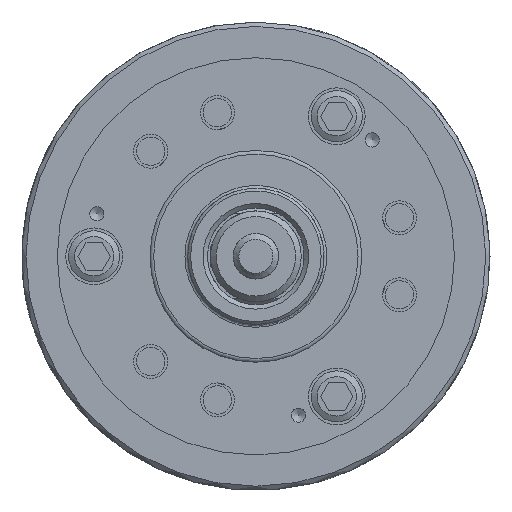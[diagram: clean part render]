
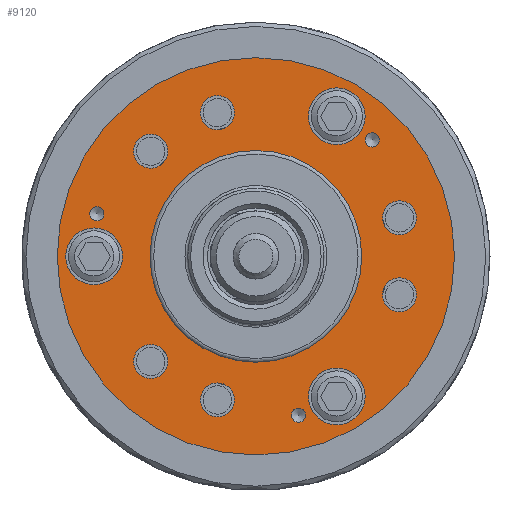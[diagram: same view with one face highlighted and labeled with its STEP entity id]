
A CAD part, left-side view. The second image highlights one B-rep face of the part: STEP entity #9120.
In plain terms, the highlighted planar face has unit normal (-1, 0, 0).
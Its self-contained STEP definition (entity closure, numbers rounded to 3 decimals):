
#58 = DIRECTION ( 'NONE',  ( 0., 0., 1. ) ) ;
#92 = ORIENTED_EDGE ( 'NONE', *, *, #4273, .F. ) ;
#146 = CARTESIAN_POINT ( 'NONE',  ( -69., -15.012, -53.524 ) ) ;
#1245 = EDGE_LOOP ( 'NONE', ( #43216 ) ) ;
#1651 = CARTESIAN_POINT ( 'NONE',  ( -69., -41.012, 43.512 ) ) ;
#2018 = CARTESIAN_POINT ( 'NONE',  ( -69., 57., 0. ) ) ;
#2184 = EDGE_CURVE ( 'NONE', #18771, #18771, #10607, .T. ) ;
#2540 = CARTESIAN_POINT ( 'NONE',  ( -69., 13.56, -50.605 ) ) ;
#3609 = VERTEX_POINT ( 'NONE', #41400 ) ;
#3713 = DIRECTION ( 'NONE',  ( -1., 0., 0. ) ) ;
#4118 = AXIS2_PLACEMENT_3D ( 'NONE', #7594, #42008, #10898 ) ;
#4273 = EDGE_CURVE ( 'NONE', #40819, #40819, #5903, .T. ) ;
#4452 = DIRECTION ( 'NONE',  ( 1., 0., 0. ) ) ;
#4849 = DIRECTION ( 'NONE',  ( 1., 0., 0. ) ) ;
#5024 = CIRCLE ( 'NONE', #19785, 2.5 ) ;
#5540 = DIRECTION ( 'NONE',  ( -1., 0., 0. ) ) ;
#5832 = DIRECTION ( 'NONE',  ( 0., 0., 1. ) ) ;
#5903 = CIRCLE ( 'NONE', #21922, 2.5 ) ;
#5904 = CARTESIAN_POINT ( 'NONE',  ( -69., -45.409, -16.56 ) ) ;
#6360 = VERTEX_POINT ( 'NONE', #29976 ) ;
#6746 = EDGE_CURVE ( 'NONE', #23660, #23660, #7377, .T. ) ;
#7377 = CIRCLE ( 'NONE', #26600, 6. ) ;
#7441 = CARTESIAN_POINT ( 'NONE',  ( -69., 57., 10. ) ) ;
#7594 = CARTESIAN_POINT ( 'NONE',  ( -69., -50.605, -13.56 ) ) ;
#8088 = ORIENTED_EDGE ( 'NONE', *, *, #2184, .T. ) ;
#8245 = CIRCLE ( 'NONE', #18167, 2.5 ) ;
#8374 = CIRCLE ( 'NONE', #43654, 6. ) ;
#9120 = ADVANCED_FACE ( 'NONE', ( #38324, #32906, #14607, #27027, #22204, #12438, #21624, #31305, #40459, #20535, #18923, #37231, #11931, #39380 ), #28985, .T. ) ;
#9426 = EDGE_CURVE ( 'NONE', #16602, #16602, #44517, .T. ) ;
#10607 = CIRCLE ( 'NONE', #43401, 6. ) ;
#10898 = DIRECTION ( 'NONE',  ( 0., 0.866, -0.5 ) ) ;
#11931 = FACE_BOUND ( 'NONE', #26648, .T. ) ;
#12391 = CARTESIAN_POINT ( 'NONE',  ( -69., 0., 0. ) ) ;
#12438 = FACE_BOUND ( 'NONE', #15707, .T. ) ;
#12493 = ORIENTED_EDGE ( 'NONE', *, *, #43053, .F. ) ;
#12611 = DIRECTION ( 'NONE',  ( -1., 0., 0. ) ) ;
#12793 = VERTEX_POINT ( 'NONE', #7441 ) ;
#14020 = AXIS2_PLACEMENT_3D ( 'NONE', #12391, #29991, #36452 ) ;
#14035 = EDGE_CURVE ( 'NONE', #6360, #6360, #38358, .T. ) ;
#14154 = DIRECTION ( 'NONE',  ( 0., 0., -1. ) ) ;
#14348 = DIRECTION ( 'NONE',  ( 1., 0., 0. ) ) ;
#14607 = FACE_BOUND ( 'NONE', #22852, .T. ) ;
#14713 = AXIS2_PLACEMENT_3D ( 'NONE', #27937, #14348, #38444 ) ;
#15149 = EDGE_LOOP ( 'NONE', ( #43371 ) ) ;
#15550 = CIRCLE ( 'NONE', #34943, 10. ) ;
#15707 = EDGE_LOOP ( 'NONE', ( #15857 ) ) ;
#15857 = ORIENTED_EDGE ( 'NONE', *, *, #28120, .T. ) ;
#16119 = CARTESIAN_POINT ( 'NONE',  ( -69., -45.409, 16.56 ) ) ;
#16199 = EDGE_CURVE ( 'NONE', #27374, #27374, #15550, .T. ) ;
#16602 = VERTEX_POINT ( 'NONE', #5904 ) ;
#17702 = CARTESIAN_POINT ( 'NONE',  ( -69., -28.5, -49.363 ) ) ;
#18167 = AXIS2_PLACEMENT_3D ( 'NONE', #20739, #34873, #58 ) ;
#18323 = CIRCLE ( 'NONE', #33677, 6. ) ;
#18678 = CARTESIAN_POINT ( 'NONE',  ( -69., 56.024, 15.012 ) ) ;
#18771 = VERTEX_POINT ( 'NONE', #29109 ) ;
#18923 = FACE_BOUND ( 'NONE', #39357, .T. ) ;
#19617 = DIRECTION ( 'NONE',  ( 0., -0.866, 0.5 ) ) ;
#19648 = CARTESIAN_POINT ( 'NONE',  ( -69., 35., -60.622 ) ) ;
#19780 = EDGE_CURVE ( 'NONE', #42399, #42399, #5024, .T. ) ;
#19785 = AXIS2_PLACEMENT_3D ( 'NONE', #18678, #31775, #42150 ) ;
#20535 = FACE_BOUND ( 'NONE', #36869, .T. ) ;
#20739 = CARTESIAN_POINT ( 'NONE',  ( -69., -15.012, -56.024 ) ) ;
#20874 = VERTEX_POINT ( 'NONE', #41558 ) ;
#21624 = FACE_BOUND ( 'NONE', #15149, .T. ) ;
#21710 = DIRECTION ( 'NONE',  ( -1., 0., 0. ) ) ;
#21874 = CARTESIAN_POINT ( 'NONE',  ( -69., -41.012, 41.012 ) ) ;
#21908 = DIRECTION ( 'NONE',  ( 0., 0.866, 0.5 ) ) ;
#21922 = AXIS2_PLACEMENT_3D ( 'NONE', #21874, #21710, #35081 ) ;
#22204 = FACE_BOUND ( 'NONE', #1245, .T. ) ;
#22319 = CIRCLE ( 'NONE', #37494, 10. ) ;
#22343 = ORIENTED_EDGE ( 'NONE', *, *, #30981, .F. ) ;
#22795 = CARTESIAN_POINT ( 'NONE',  ( -69., -37.16, -44.363 ) ) ;
#22852 = EDGE_LOOP ( 'NONE', ( #24574 ) ) ;
#22966 = DIRECTION ( 'NONE',  ( -1., 0., 0. ) ) ;
#23277 = DIRECTION ( 'NONE',  ( 0., 0., 1. ) ) ;
#23656 = EDGE_CURVE ( 'NONE', #30575, #30575, #18323, .T. ) ;
#23660 = VERTEX_POINT ( 'NONE', #35718 ) ;
#23685 = CARTESIAN_POINT ( 'NONE',  ( -69., -28.5, 49.363 ) ) ;
#23703 = ORIENTED_EDGE ( 'NONE', *, *, #6746, .F. ) ;
#24013 = ORIENTED_EDGE ( 'NONE', *, *, #32807, .F. ) ;
#24375 = AXIS2_PLACEMENT_3D ( 'NONE', #19648, #22966, #23277 ) ;
#24442 = DIRECTION ( 'NONE',  ( 1., 0., 0. ) ) ;
#24456 = ORIENTED_EDGE ( 'NONE', *, *, #19780, .F. ) ;
#24574 = ORIENTED_EDGE ( 'NONE', *, *, #38229, .F. ) ;
#24674 = AXIS2_PLACEMENT_3D ( 'NONE', #33217, #12611, #5832 ) ;
#25047 = EDGE_LOOP ( 'NONE', ( #12493 ) ) ;
#25211 = EDGE_LOOP ( 'NONE', ( #42514 ) ) ;
#25315 = CIRCLE ( 'NONE', #32933, 10. ) ;
#25733 = EDGE_LOOP ( 'NONE', ( #92 ) ) ;
#26309 = VERTEX_POINT ( 'NONE', #22795 ) ;
#26600 = AXIS2_PLACEMENT_3D ( 'NONE', #34750, #3713, #38372 ) ;
#26648 = EDGE_LOOP ( 'NONE', ( #8088 ) ) ;
#26704 = VERTEX_POINT ( 'NONE', #146 ) ;
#27027 = FACE_BOUND ( 'NONE', #41728, .T. ) ;
#27276 = EDGE_LOOP ( 'NONE', ( #24456 ) ) ;
#27374 = VERTEX_POINT ( 'NONE', #33450 ) ;
#27937 = CARTESIAN_POINT ( 'NONE',  ( -69., 0., 0. ) ) ;
#28120 = EDGE_CURVE ( 'NONE', #26309, #26309, #22319, .T. ) ;
#28569 = DIRECTION ( 'NONE',  ( 0., -0.866, 0.5 ) ) ;
#28985 = PLANE ( 'NONE',  #24375 ) ;
#29109 = CARTESIAN_POINT ( 'NONE',  ( -69., 8.363, -47.605 ) ) ;
#29619 = DIRECTION ( 'NONE',  ( 0., 0., 1. ) ) ;
#29810 = DIRECTION ( 'NONE',  ( 1., 0., 0. ) ) ;
#29976 = CARTESIAN_POINT ( 'NONE',  ( -69., 0., 37.3 ) ) ;
#29991 = DIRECTION ( 'NONE',  ( 1., 0., 0. ) ) ;
#30244 = ORIENTED_EDGE ( 'NONE', *, *, #23656, .T. ) ;
#30575 = VERTEX_POINT ( 'NONE', #16119 ) ;
#30981 = EDGE_CURVE ( 'NONE', #12793, #12793, #25315, .T. ) ;
#31305 = FACE_OUTER_BOUND ( 'NONE', #25047, .T. ) ;
#31330 = CARTESIAN_POINT ( 'NONE',  ( -69., 0., -70. ) ) ;
#31526 = CIRCLE ( 'NONE', #24674, 6. ) ;
#31775 = DIRECTION ( 'NONE',  ( -1., 0., 0. ) ) ;
#32807 = EDGE_CURVE ( 'NONE', #20874, #20874, #31526, .T. ) ;
#32906 = FACE_BOUND ( 'NONE', #25733, .T. ) ;
#32933 = AXIS2_PLACEMENT_3D ( 'NONE', #2018, #5540, #29619 ) ;
#33217 = CARTESIAN_POINT ( 'NONE',  ( -69., 37.045, -37.045 ) ) ;
#33450 = CARTESIAN_POINT ( 'NONE',  ( -69., -19.84, 54.363 ) ) ;
#33476 = EDGE_CURVE ( 'NONE', #3609, #3609, #8374, .T. ) ;
#33677 = AXIS2_PLACEMENT_3D ( 'NONE', #42459, #4849, #21908 ) ;
#34750 = CARTESIAN_POINT ( 'NONE',  ( -69., 13.56, 50.605 ) ) ;
#34873 = DIRECTION ( 'NONE',  ( -1., 0., 0. ) ) ;
#34943 = AXIS2_PLACEMENT_3D ( 'NONE', #23685, #29810, #43784 ) ;
#35081 = DIRECTION ( 'NONE',  ( 0., 0., 1. ) ) ;
#35718 = CARTESIAN_POINT ( 'NONE',  ( -69., 8.363, 47.605 ) ) ;
#36452 = DIRECTION ( 'NONE',  ( 0., 0., -1. ) ) ;
#36869 = EDGE_LOOP ( 'NONE', ( #38525 ) ) ;
#37124 = VERTEX_POINT ( 'NONE', #31330 ) ;
#37231 = FACE_BOUND ( 'NONE', #25211, .T. ) ;
#37494 = AXIS2_PLACEMENT_3D ( 'NONE', #17702, #4452, #28569 ) ;
#37819 = CIRCLE ( 'NONE', #14020, 70. ) ;
#38229 = EDGE_CURVE ( 'NONE', #26704, #26704, #8245, .T. ) ;
#38324 = FACE_BOUND ( 'NONE', #27276, .T. ) ;
#38358 = CIRCLE ( 'NONE', #14713, 37.3 ) ;
#38372 = DIRECTION ( 'NONE',  ( 0., -0.866, -0.5 ) ) ;
#38444 = DIRECTION ( 'NONE',  ( 0., 0., 1. ) ) ;
#38525 = ORIENTED_EDGE ( 'NONE', *, *, #9426, .F. ) ;
#39357 = EDGE_LOOP ( 'NONE', ( #23703 ) ) ;
#39380 = FACE_BOUND ( 'NONE', #44234, .T. ) ;
#40356 = CARTESIAN_POINT ( 'NONE',  ( -69., 56.024, 17.512 ) ) ;
#40459 = FACE_BOUND ( 'NONE', #42630, .T. ) ;
#40819 = VERTEX_POINT ( 'NONE', #1651 ) ;
#41400 = CARTESIAN_POINT ( 'NONE',  ( -69., 37.045, 31.045 ) ) ;
#41527 = CARTESIAN_POINT ( 'NONE',  ( -69., 37.045, 37.045 ) ) ;
#41558 = CARTESIAN_POINT ( 'NONE',  ( -69., 37.045, -31.045 ) ) ;
#41728 = EDGE_LOOP ( 'NONE', ( #22343 ) ) ;
#42008 = DIRECTION ( 'NONE',  ( -1., 0., 0. ) ) ;
#42150 = DIRECTION ( 'NONE',  ( 0., 0., 1. ) ) ;
#42399 = VERTEX_POINT ( 'NONE', #40356 ) ;
#42459 = CARTESIAN_POINT ( 'NONE',  ( -69., -50.605, 13.56 ) ) ;
#42514 = ORIENTED_EDGE ( 'NONE', *, *, #33476, .T. ) ;
#42630 = EDGE_LOOP ( 'NONE', ( #30244 ) ) ;
#43053 = EDGE_CURVE ( 'NONE', #37124, #37124, #37819, .T. ) ;
#43216 = ORIENTED_EDGE ( 'NONE', *, *, #14035, .T. ) ;
#43371 = ORIENTED_EDGE ( 'NONE', *, *, #16199, .T. ) ;
#43401 = AXIS2_PLACEMENT_3D ( 'NONE', #2540, #44085, #19617 ) ;
#43654 = AXIS2_PLACEMENT_3D ( 'NONE', #41527, #24442, #14154 ) ;
#43784 = DIRECTION ( 'NONE',  ( 0., 0.866, 0.5 ) ) ;
#44085 = DIRECTION ( 'NONE',  ( 1., 0., 0. ) ) ;
#44234 = EDGE_LOOP ( 'NONE', ( #24013 ) ) ;
#44517 = CIRCLE ( 'NONE', #4118, 6. ) ;
